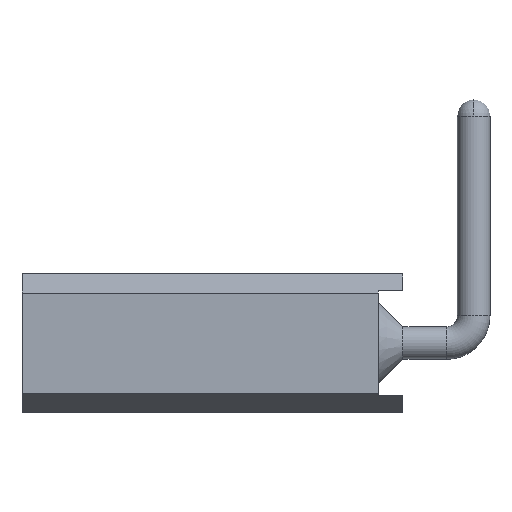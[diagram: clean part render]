
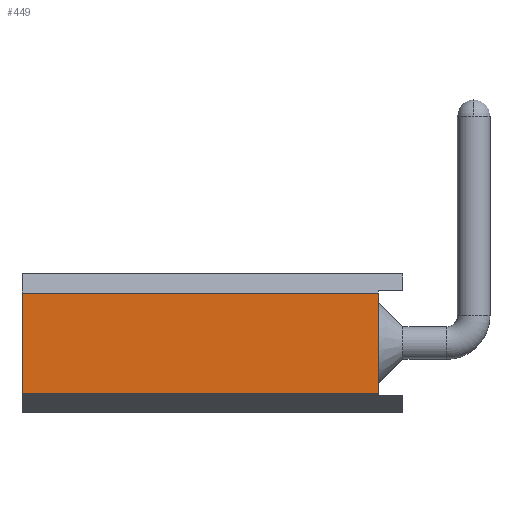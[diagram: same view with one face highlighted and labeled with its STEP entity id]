
A CAD part, left-side view. The second image highlights one B-rep face of the part: STEP entity #449.
In plain terms, the highlighted planar face has unit normal (-1, 0, 0).
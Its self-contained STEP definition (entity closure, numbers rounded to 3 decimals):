
#118 = DIRECTION ( 'NONE',  ( 1., 0., 0. ) ) ;
#151 = ORIENTED_EDGE ( 'NONE', *, *, #2516, .F. ) ;
#253 = AXIS2_PLACEMENT_3D ( 'NONE', #2579, #118, #2117 ) ;
#292 = VECTOR ( 'NONE', #1424, 1000. ) ;
#364 = CARTESIAN_POINT ( 'NONE',  ( -1.299, -3.05, 1.011 ) ) ;
#402 = DIRECTION ( 'NONE',  ( 0., 1., 0. ) ) ;
#449 = ADVANCED_FACE ( 'NONE', ( #529 ), #1222, .F. ) ;
#528 = VECTOR ( 'NONE', #786, 1000. ) ;
#529 = FACE_OUTER_BOUND ( 'NONE', #702, .T. ) ;
#562 = ORIENTED_EDGE ( 'NONE', *, *, #859, .T. ) ;
#621 = CARTESIAN_POINT ( 'NONE',  ( -1.299, 3.5, 0.961 ) ) ;
#646 = LINE ( 'NONE', #1057, #2120 ) ;
#702 = EDGE_LOOP ( 'NONE', ( #151, #1623, #562, #2644 ) ) ;
#763 = LINE ( 'NONE', #1861, #2684 ) ;
#774 = LINE ( 'NONE', #1656, #528 ) ;
#786 = DIRECTION ( 'NONE',  ( 0., 1., 0. ) ) ;
#801 = DIRECTION ( 'NONE',  ( 0., 0., 1. ) ) ;
#859 = EDGE_CURVE ( 'NONE', #1734, #2170, #646, .T. ) ;
#1057 = CARTESIAN_POINT ( 'NONE',  ( -1.299, -3.5, 0.961 ) ) ;
#1218 = CARTESIAN_POINT ( 'NONE',  ( -1.299, 3.5, -0.879 ) ) ;
#1222 = PLANE ( 'NONE',  #253 ) ;
#1253 = VERTEX_POINT ( 'NONE', #1732 ) ;
#1424 = DIRECTION ( 'NONE',  ( 0., 0., 1. ) ) ;
#1598 = EDGE_CURVE ( 'NONE', #1253, #1734, #2554, .T. ) ;
#1623 = ORIENTED_EDGE ( 'NONE', *, *, #1598, .T. ) ;
#1656 = CARTESIAN_POINT ( 'NONE',  ( -1.299, -3.5, -0.879 ) ) ;
#1732 = CARTESIAN_POINT ( 'NONE',  ( -1.299, -3.05, -0.879 ) ) ;
#1734 = VERTEX_POINT ( 'NONE', #1963 ) ;
#1861 = CARTESIAN_POINT ( 'NONE',  ( -1.299, 3.5, -1.229 ) ) ;
#1963 = CARTESIAN_POINT ( 'NONE',  ( -1.299, -3.05, 0.961 ) ) ;
#2025 = EDGE_CURVE ( 'NONE', #2066, #2170, #763, .T. ) ;
#2066 = VERTEX_POINT ( 'NONE', #1218 ) ;
#2117 = DIRECTION ( 'NONE',  ( 0., 0., 1. ) ) ;
#2120 = VECTOR ( 'NONE', #402, 1000. ) ;
#2170 = VERTEX_POINT ( 'NONE', #621 ) ;
#2516 = EDGE_CURVE ( 'NONE', #1253, #2066, #774, .T. ) ;
#2554 = LINE ( 'NONE', #364, #292 ) ;
#2579 = CARTESIAN_POINT ( 'NONE',  ( -1.299, 3.5, -1.229 ) ) ;
#2644 = ORIENTED_EDGE ( 'NONE', *, *, #2025, .F. ) ;
#2684 = VECTOR ( 'NONE', #801, 1000. ) ;
